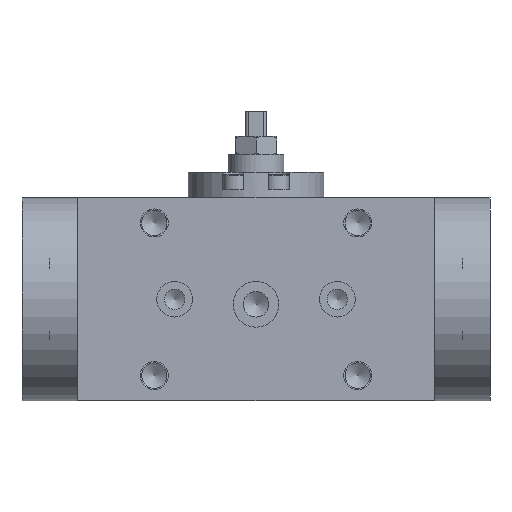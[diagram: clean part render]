
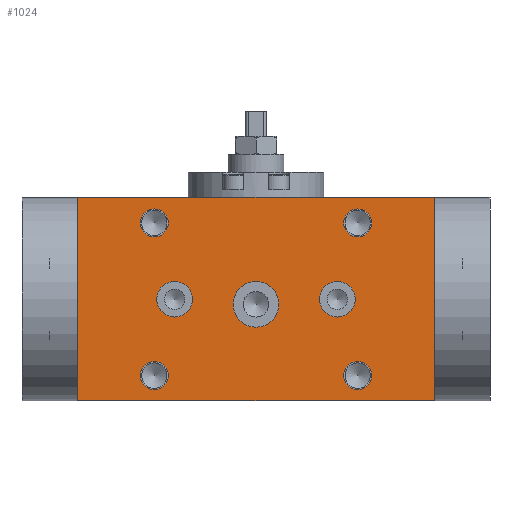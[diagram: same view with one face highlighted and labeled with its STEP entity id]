
A CAD part, front view. The second image highlights one B-rep face of the part: STEP entity #1024.
In plain terms, the highlighted planar face has unit normal (0, -1, 0).
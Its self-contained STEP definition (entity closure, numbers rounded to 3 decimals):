
#1024=ADVANCED_FACE('',(#3740,#3741,#3742,#3743,#3744,#3745,#3746,#3747),
#1707,.F.);
#1707=PLANE('',#11006);
#2114=LINE('',#15291,#2906);
#2140=LINE('',#15400,#2932);
#2160=LINE('',#15487,#2952);
#2169=LINE('',#15533,#2961);
#2906=VECTOR('',#12130,1.);
#2932=VECTOR('',#12214,1.);
#2952=VECTOR('',#12284,1.);
#2961=VECTOR('',#12323,1.);
#3740=FACE_BOUND('',#4461,.T.);
#3741=FACE_BOUND('',#4462,.T.);
#3742=FACE_BOUND('',#4463,.T.);
#3743=FACE_BOUND('',#4464,.T.);
#3744=FACE_BOUND('',#4465,.T.);
#3745=FACE_BOUND('',#4466,.T.);
#3746=FACE_BOUND('',#4467,.T.);
#3747=FACE_BOUND('',#4468,.T.);
#4461=EDGE_LOOP('',(#5618));
#4462=EDGE_LOOP('',(#5619));
#4463=EDGE_LOOP('',(#5620,#5621,#5622,#5623));
#4464=EDGE_LOOP('',(#5624));
#4465=EDGE_LOOP('',(#5625));
#4466=EDGE_LOOP('',(#5626));
#4467=EDGE_LOOP('',(#5627));
#4468=EDGE_LOOP('',(#5628));
#5618=ORIENTED_EDGE('',*,*,#9251,.F.);
#5619=ORIENTED_EDGE('',*,*,#9252,.F.);
#5620=ORIENTED_EDGE('',*,*,#9253,.T.);
#5621=ORIENTED_EDGE('',*,*,#9230,.F.);
#5622=ORIENTED_EDGE('',*,*,#9132,.F.);
#5623=ORIENTED_EDGE('',*,*,#9186,.T.);
#5624=ORIENTED_EDGE('',*,*,#9254,.T.);
#5625=ORIENTED_EDGE('',*,*,#9255,.T.);
#5626=ORIENTED_EDGE('',*,*,#9256,.F.);
#5627=ORIENTED_EDGE('',*,*,#9257,.F.);
#5628=ORIENTED_EDGE('',*,*,#9258,.T.);
#8112=VERTEX_POINT('',#15273);
#8121=VERTEX_POINT('',#15290);
#8175=VERTEX_POINT('',#15399);
#8216=VERTEX_POINT('',#15484);
#8238=VERTEX_POINT('',#15530);
#8239=VERTEX_POINT('',#15532);
#8240=VERTEX_POINT('',#15535);
#8241=VERTEX_POINT('',#15537);
#8242=VERTEX_POINT('',#15539);
#8243=VERTEX_POINT('',#15541);
#8244=VERTEX_POINT('',#15543);
#9132=EDGE_CURVE('',#8121,#8112,#2114,.T.);
#9186=EDGE_CURVE('',#8121,#8175,#2140,.T.);
#9230=EDGE_CURVE('',#8112,#8216,#2160,.T.);
#9251=EDGE_CURVE('',#8238,#8238,#10499,.T.);
#9252=EDGE_CURVE('',#8239,#8239,#10500,.T.);
#9253=EDGE_CURVE('',#8175,#8216,#2169,.T.);
#9254=EDGE_CURVE('',#8240,#8240,#10501,.T.);
#9255=EDGE_CURVE('',#8241,#8241,#10502,.T.);
#9256=EDGE_CURVE('',#8242,#8242,#10503,.T.);
#9257=EDGE_CURVE('',#8243,#8243,#10504,.T.);
#9258=EDGE_CURVE('',#8244,#8244,#10505,.T.);
#10499=CIRCLE('',#10999,5.5);
#10500=CIRCLE('',#11000,5.5);
#10501=CIRCLE('',#11001,5.5);
#10502=CIRCLE('',#11002,5.5);
#10503=CIRCLE('',#11003,9.);
#10504=CIRCLE('',#11004,7.);
#10505=CIRCLE('',#11005,7.);
#10999=AXIS2_PLACEMENT_3D('',#15529,#12319,#12320);
#11000=AXIS2_PLACEMENT_3D('',#15531,#12321,#12322);
#11001=AXIS2_PLACEMENT_3D('',#15534,#12324,#12325);
#11002=AXIS2_PLACEMENT_3D('',#15536,#12326,#12327);
#11003=AXIS2_PLACEMENT_3D('',#15538,#12328,#12329);
#11004=AXIS2_PLACEMENT_3D('',#15540,#12330,#12331);
#11005=AXIS2_PLACEMENT_3D('',#15542,#12332,#12333);
#11006=AXIS2_PLACEMENT_3D('',#15544,#12334,#12335);
#12130=DIRECTION('',(1.,0.,0.));
#12214=DIRECTION('',(0.,0.,-1.));
#12284=DIRECTION('',(0.,0.,-1.));
#12319=DIRECTION('',(0.,-1.,0.));
#12320=DIRECTION('',(-1.,0.,0.));
#12321=DIRECTION('',(0.,-1.,0.));
#12322=DIRECTION('',(1.,0.,0.));
#12323=DIRECTION('',(1.,0.,0.));
#12324=DIRECTION('',(0.,1.,0.));
#12325=DIRECTION('',(-1.,0.,0.));
#12326=DIRECTION('',(0.,1.,0.));
#12327=DIRECTION('',(1.,0.,0.));
#12328=DIRECTION('',(0.,-1.,0.));
#12329=DIRECTION('',(1.,0.,0.));
#12330=DIRECTION('',(0.,-1.,0.));
#12331=DIRECTION('',(1.,0.,0.));
#12332=DIRECTION('',(0.,1.,0.));
#12333=DIRECTION('',(-1.,0.,0.));
#12334=DIRECTION('',(0.,1.,0.));
#12335=DIRECTION('',(0.,0.,1.));
#15273=CARTESIAN_POINT('',(70.,-52.337,80.));
#15290=CARTESIAN_POINT('',(-70.,-52.337,80.));
#15291=CARTESIAN_POINT('',(-70.,-52.337,80.));
#15399=CARTESIAN_POINT('',(-70.,-52.337,0.));
#15400=CARTESIAN_POINT('',(-70.,-52.337,80.));
#15484=CARTESIAN_POINT('',(70.,-52.337,0.));
#15487=CARTESIAN_POINT('',(70.,-52.337,80.));
#15529=CARTESIAN_POINT('',(40.,-52.337,10.));
#15530=CARTESIAN_POINT('',(34.5,-52.337,10.));
#15531=CARTESIAN_POINT('',(-40.,-52.337,70.));
#15532=CARTESIAN_POINT('',(-34.5,-52.337,70.));
#15533=CARTESIAN_POINT('',(-70.,-52.337,0.));
#15534=CARTESIAN_POINT('',(40.,-52.337,70.));
#15535=CARTESIAN_POINT('',(34.5,-52.337,70.));
#15536=CARTESIAN_POINT('',(-40.,-52.337,10.));
#15537=CARTESIAN_POINT('',(-34.5,-52.337,10.));
#15538=CARTESIAN_POINT('',(0.,-52.337,38.));
#15539=CARTESIAN_POINT('',(9.,-52.337,38.));
#15540=CARTESIAN_POINT('',(-32.,-52.337,40.));
#15541=CARTESIAN_POINT('',(-25.,-52.337,40.));
#15542=CARTESIAN_POINT('',(32.,-52.337,40.));
#15543=CARTESIAN_POINT('',(25.,-52.337,40.));
#15544=CARTESIAN_POINT('',(-70.,-52.337,80.));
